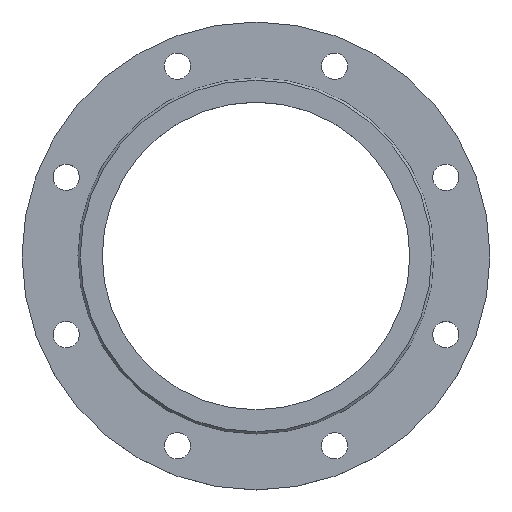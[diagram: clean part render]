
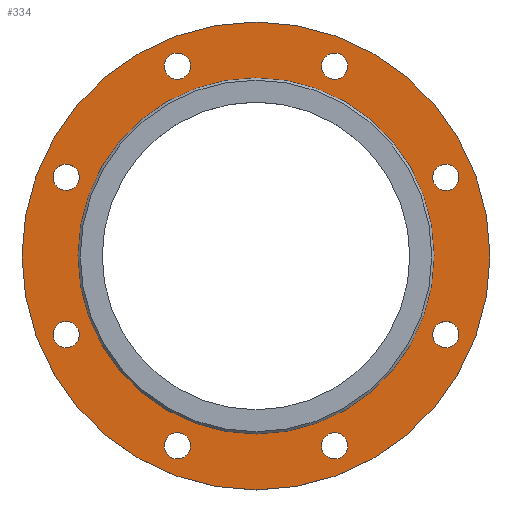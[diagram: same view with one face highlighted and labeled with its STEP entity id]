
A CAD part, top view. The second image highlights one B-rep face of the part: STEP entity #334.
In plain terms, the highlighted planar face has unit normal (0, 0, 1).
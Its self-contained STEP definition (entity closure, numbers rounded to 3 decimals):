
#16=FACE_BOUND('',#62,.T.);
#17=FACE_BOUND('',#63,.T.);
#18=FACE_BOUND('',#64,.T.);
#19=FACE_BOUND('',#65,.T.);
#20=FACE_BOUND('',#66,.T.);
#21=FACE_BOUND('',#67,.T.);
#22=FACE_BOUND('',#68,.T.);
#23=FACE_BOUND('',#69,.T.);
#24=FACE_BOUND('',#70,.T.);
#35=PLANE('',#395);
#47=FACE_OUTER_BOUND('',#61,.T.);
#61=EDGE_LOOP('',(#268,#269));
#62=EDGE_LOOP('',(#270));
#63=EDGE_LOOP('',(#271));
#64=EDGE_LOOP('',(#272));
#65=EDGE_LOOP('',(#273));
#66=EDGE_LOOP('',(#274));
#67=EDGE_LOOP('',(#275));
#68=EDGE_LOOP('',(#276));
#69=EDGE_LOOP('',(#277));
#70=EDGE_LOOP('',(#278,#279));
#112=CIRCLE('',#366,11.5);
#115=CIRCLE('',#370,11.5);
#118=CIRCLE('',#374,11.5);
#121=CIRCLE('',#378,11.5);
#124=CIRCLE('',#382,11.5);
#127=CIRCLE('',#386,11.5);
#130=CIRCLE('',#390,11.5);
#133=CIRCLE('',#394,11.5);
#134=CIRCLE('',#396,205.);
#135=CIRCLE('',#397,205.);
#136=CIRCLE('',#398,156.);
#137=CIRCLE('',#399,156.);
#147=VERTEX_POINT('',#533);
#150=VERTEX_POINT('',#541);
#153=VERTEX_POINT('',#549);
#156=VERTEX_POINT('',#557);
#159=VERTEX_POINT('',#565);
#162=VERTEX_POINT('',#573);
#165=VERTEX_POINT('',#581);
#168=VERTEX_POINT('',#589);
#169=VERTEX_POINT('',#593);
#170=VERTEX_POINT('',#594);
#171=VERTEX_POINT('',#597);
#172=VERTEX_POINT('',#598);
#184=EDGE_CURVE('',#147,#147,#112,.T.);
#188=EDGE_CURVE('',#150,#150,#115,.T.);
#192=EDGE_CURVE('',#153,#153,#118,.T.);
#196=EDGE_CURVE('',#156,#156,#121,.T.);
#200=EDGE_CURVE('',#159,#159,#124,.T.);
#204=EDGE_CURVE('',#162,#162,#127,.T.);
#208=EDGE_CURVE('',#165,#165,#130,.T.);
#212=EDGE_CURVE('',#168,#168,#133,.T.);
#213=EDGE_CURVE('',#169,#170,#134,.T.);
#214=EDGE_CURVE('',#170,#169,#135,.T.);
#215=EDGE_CURVE('',#171,#172,#136,.T.);
#216=EDGE_CURVE('',#172,#171,#137,.T.);
#268=ORIENTED_EDGE('',*,*,#213,.F.);
#269=ORIENTED_EDGE('',*,*,#214,.F.);
#270=ORIENTED_EDGE('',*,*,#184,.T.);
#271=ORIENTED_EDGE('',*,*,#188,.T.);
#272=ORIENTED_EDGE('',*,*,#192,.T.);
#273=ORIENTED_EDGE('',*,*,#196,.T.);
#274=ORIENTED_EDGE('',*,*,#200,.T.);
#275=ORIENTED_EDGE('',*,*,#204,.T.);
#276=ORIENTED_EDGE('',*,*,#208,.T.);
#277=ORIENTED_EDGE('',*,*,#212,.T.);
#278=ORIENTED_EDGE('',*,*,#215,.T.);
#279=ORIENTED_EDGE('',*,*,#216,.T.);
#334=ADVANCED_FACE('',(#47,#16,#17,#18,#19,#20,#21,#22,#23,#24),#35,.F.);
#366=AXIS2_PLACEMENT_3D('',#535,#426,#427);
#370=AXIS2_PLACEMENT_3D('',#543,#435,#436);
#374=AXIS2_PLACEMENT_3D('',#551,#444,#445);
#378=AXIS2_PLACEMENT_3D('',#559,#453,#454);
#382=AXIS2_PLACEMENT_3D('',#567,#462,#463);
#386=AXIS2_PLACEMENT_3D('',#575,#471,#472);
#390=AXIS2_PLACEMENT_3D('',#583,#480,#481);
#394=AXIS2_PLACEMENT_3D('',#591,#489,#490);
#395=AXIS2_PLACEMENT_3D('',#592,#491,#492);
#396=AXIS2_PLACEMENT_3D('',#595,#493,#494);
#397=AXIS2_PLACEMENT_3D('',#596,#495,#496);
#398=AXIS2_PLACEMENT_3D('',#599,#497,#498);
#399=AXIS2_PLACEMENT_3D('',#600,#499,#500);
#426=DIRECTION('center_axis',(0.,0.,-1.));
#427=DIRECTION('ref_axis',(-0.707,0.707,0.));
#435=DIRECTION('center_axis',(0.,0.,-1.));
#436=DIRECTION('ref_axis',(0.,1.,0.));
#444=DIRECTION('center_axis',(0.,0.,-1.));
#445=DIRECTION('ref_axis',(0.707,0.707,0.));
#453=DIRECTION('center_axis',(0.,0.,-1.));
#454=DIRECTION('ref_axis',(1.,0.,0.));
#462=DIRECTION('center_axis',(0.,0.,-1.));
#463=DIRECTION('ref_axis',(0.707,-0.707,0.));
#471=DIRECTION('center_axis',(0.,0.,-1.));
#472=DIRECTION('ref_axis',(0.,-1.,0.));
#480=DIRECTION('center_axis',(0.,0.,-1.));
#481=DIRECTION('ref_axis',(-0.707,-0.707,0.));
#489=DIRECTION('center_axis',(0.,0.,-1.));
#490=DIRECTION('ref_axis',(-1.,0.,0.));
#491=DIRECTION('center_axis',(0.,0.,-1.));
#492=DIRECTION('ref_axis',(-1.,0.,0.));
#493=DIRECTION('center_axis',(0.,0.,-1.));
#494=DIRECTION('ref_axis',(1.,0.,0.));
#495=DIRECTION('center_axis',(0.,0.,-1.));
#496=DIRECTION('ref_axis',(1.,0.,0.));
#497=DIRECTION('center_axis',(0.,0.,-1.));
#498=DIRECTION('ref_axis',(1.,0.,0.));
#499=DIRECTION('center_axis',(0.,0.,-1.));
#500=DIRECTION('ref_axis',(1.,0.,0.));
#533=CARTESIAN_POINT('',(-158.167,-77.015,-2.));
#535=CARTESIAN_POINT('Origin',(-166.298,-68.883,-2.));
#541=CARTESIAN_POINT('',(-166.298,57.383,-2.));
#543=CARTESIAN_POINT('Origin',(-166.298,68.883,-2.));
#549=CARTESIAN_POINT('',(-77.015,158.167,-2.));
#551=CARTESIAN_POINT('Origin',(-68.883,166.298,-2.));
#557=CARTESIAN_POINT('',(57.383,166.298,-2.));
#559=CARTESIAN_POINT('Origin',(68.883,166.298,-2.));
#565=CARTESIAN_POINT('',(158.167,77.015,-2.));
#567=CARTESIAN_POINT('Origin',(166.298,68.883,-2.));
#573=CARTESIAN_POINT('',(166.298,-57.383,-2.));
#575=CARTESIAN_POINT('Origin',(166.298,-68.883,-2.));
#581=CARTESIAN_POINT('',(77.015,-158.167,-2.));
#583=CARTESIAN_POINT('Origin',(68.883,-166.298,-2.));
#589=CARTESIAN_POINT('',(-57.383,-166.298,-2.));
#591=CARTESIAN_POINT('Origin',(-68.883,-166.298,-2.));
#592=CARTESIAN_POINT('Origin',(156.,0.,-2.));
#593=CARTESIAN_POINT('',(205.,0.,-2.));
#594=CARTESIAN_POINT('',(-205.,0.,-2.));
#595=CARTESIAN_POINT('Origin',(0.,0.,-2.));
#596=CARTESIAN_POINT('Origin',(0.,0.,-2.));
#597=CARTESIAN_POINT('',(156.,0.,-2.));
#598=CARTESIAN_POINT('',(-156.,0.,-2.));
#599=CARTESIAN_POINT('Origin',(0.,0.,-2.));
#600=CARTESIAN_POINT('Origin',(0.,0.,-2.));
